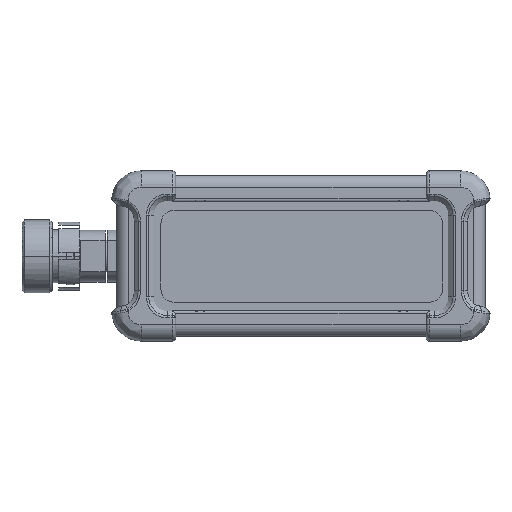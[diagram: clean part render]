
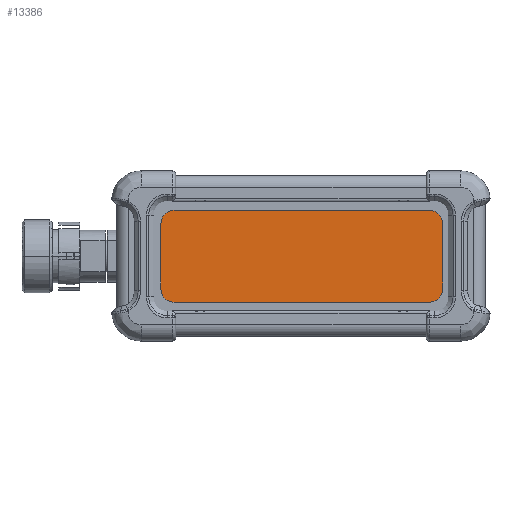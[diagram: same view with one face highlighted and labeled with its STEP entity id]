
A CAD part, front view. The second image highlights one B-rep face of the part: STEP entity #13386.
In plain terms, the highlighted planar face has unit normal (0, -1, 0).
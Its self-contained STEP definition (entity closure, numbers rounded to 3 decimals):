
#10322=DIRECTION('',(1.,0.,0.));
#10323=VECTOR('',#10322,78.);
#10324=CARTESIAN_POINT('',(-41.288,-11.64,60.133));
#10325=LINE('',#10324,#10323);
#10326=CARTESIAN_POINT('',(36.712,-11.64,56.133));
#10327=DIRECTION('',(0.,1.,0.));
#10328=DIRECTION('',(0.,0.,1.));
#10329=AXIS2_PLACEMENT_3D('',#10326,#10327,#10328);
#10331=DIRECTION('',(0.,0.,-1.));
#10332=VECTOR('',#10331,20.);
#10333=CARTESIAN_POINT('',(40.712,-11.64,56.133));
#10334=LINE('',#10333,#10332);
#10335=CARTESIAN_POINT('',(36.712,-11.64,36.133));
#10336=DIRECTION('',(0.,1.,0.));
#10337=DIRECTION('',(1.,0.,0.));
#10338=AXIS2_PLACEMENT_3D('',#10335,#10336,#10337);
#10340=DIRECTION('',(-1.,0.,0.));
#10341=VECTOR('',#10340,78.);
#10342=CARTESIAN_POINT('',(36.712,-11.64,32.133));
#10343=LINE('',#10342,#10341);
#10344=CARTESIAN_POINT('',(-41.288,-11.64,36.133));
#10345=DIRECTION('',(0.,1.,0.));
#10346=DIRECTION('',(0.,0.,-1.));
#10347=AXIS2_PLACEMENT_3D('',#10344,#10345,#10346);
#10349=DIRECTION('',(0.,0.,1.));
#10350=VECTOR('',#10349,20.);
#10351=CARTESIAN_POINT('',(-45.288,-11.64,36.133));
#10352=LINE('',#10351,#10350);
#10353=CARTESIAN_POINT('',(-41.288,-11.64,56.133));
#10354=DIRECTION('',(0.,1.,0.));
#10355=DIRECTION('',(-1.,0.,0.));
#10356=AXIS2_PLACEMENT_3D('',#10353,#10354,#10355);
#11186=CARTESIAN_POINT('',(40.712,-11.64,56.133));
#11187=VERTEX_POINT('',#11186);
#11188=CARTESIAN_POINT('',(36.712,-11.64,60.133));
#11189=VERTEX_POINT('',#11188);
#11190=CARTESIAN_POINT('',(36.712,-11.64,32.133));
#11191=VERTEX_POINT('',#11190);
#11192=CARTESIAN_POINT('',(40.712,-11.64,36.133));
#11193=VERTEX_POINT('',#11192);
#11194=CARTESIAN_POINT('',(-45.288,-11.64,36.133));
#11195=VERTEX_POINT('',#11194);
#11196=CARTESIAN_POINT('',(-41.288,-11.64,32.133));
#11197=VERTEX_POINT('',#11196);
#11198=CARTESIAN_POINT('',(-41.288,-11.64,60.133));
#11199=VERTEX_POINT('',#11198);
#11200=CARTESIAN_POINT('',(-45.288,-11.64,56.133));
#11201=VERTEX_POINT('',#11200);
#13364=CARTESIAN_POINT('',(-2.288,-11.64,46.133));
#13365=DIRECTION('',(0.,1.,0.));
#13366=DIRECTION('',(1.,0.,0.));
#13367=AXIS2_PLACEMENT_3D('',#13364,#13365,#13366);
#13368=PLANE('',#13367);
#13370=ORIENTED_EDGE('',*,*,#13369,.T.);
#13371=ORIENTED_EDGE('',*,*,#13357,.T.);
#13373=ORIENTED_EDGE('',*,*,#13372,.T.);
#13375=ORIENTED_EDGE('',*,*,#13374,.T.);
#13377=ORIENTED_EDGE('',*,*,#13376,.T.);
#13379=ORIENTED_EDGE('',*,*,#13378,.T.);
#13381=ORIENTED_EDGE('',*,*,#13380,.T.);
#13383=ORIENTED_EDGE('',*,*,#13382,.T.);
#13384=EDGE_LOOP('',(#13370,#13371,#13373,#13375,#13377,#13379,#13381,#13383));
#13385=FACE_OUTER_BOUND('',#13384,.F.);
#13386=ADVANCED_FACE('',(#13385),#13368,.F.);
#10330=CIRCLE('',#10329,4.);
#10339=CIRCLE('',#10338,4.);
#10348=CIRCLE('',#10347,4.);
#10357=CIRCLE('',#10356,4.);
#13357=EDGE_CURVE('',#11189,#11187,#10330,.T.);
#13369=EDGE_CURVE('',#11199,#11189,#10325,.T.);
#13372=EDGE_CURVE('',#11187,#11193,#10334,.T.);
#13374=EDGE_CURVE('',#11193,#11191,#10339,.T.);
#13376=EDGE_CURVE('',#11191,#11197,#10343,.T.);
#13378=EDGE_CURVE('',#11197,#11195,#10348,.T.);
#13380=EDGE_CURVE('',#11195,#11201,#10352,.T.);
#13382=EDGE_CURVE('',#11201,#11199,#10357,.T.);
